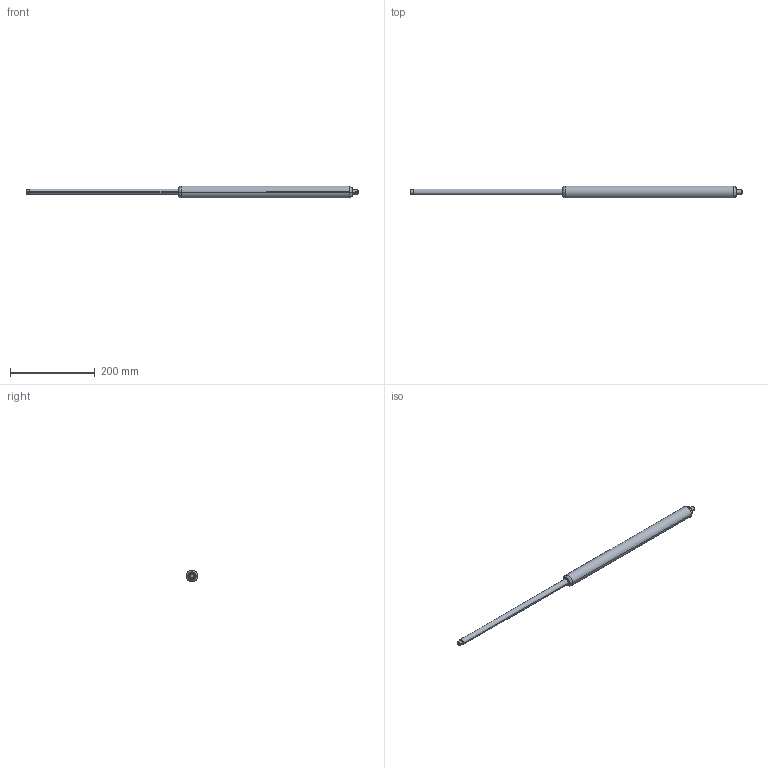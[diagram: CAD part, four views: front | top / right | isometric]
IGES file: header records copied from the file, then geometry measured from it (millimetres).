
Start section: SolidWorks IGES file using analytic representation for surfaces
Global section: file name: Z:\7-3D図面\01.図面\01.L\外形図\Ｇ／Ｓ\20170710(最新)\カタログ用\IGES\FGS-28-350-BB.IGS; native system: SolidWorks 2016; preprocessor: SolidWorks 2016; author: flgijutsu; date: 170710.171728; units: millimetre
Bounding box: 784 x 28 x 28 mm (x, y, z)
Surface area: 53287.4 mm2 (no closed solid volume)
Topology: 0 solids, 0 shells, 31 faces, 360 edges, 360 vertices
Faces by surface type: revolution 22, bspline 9
